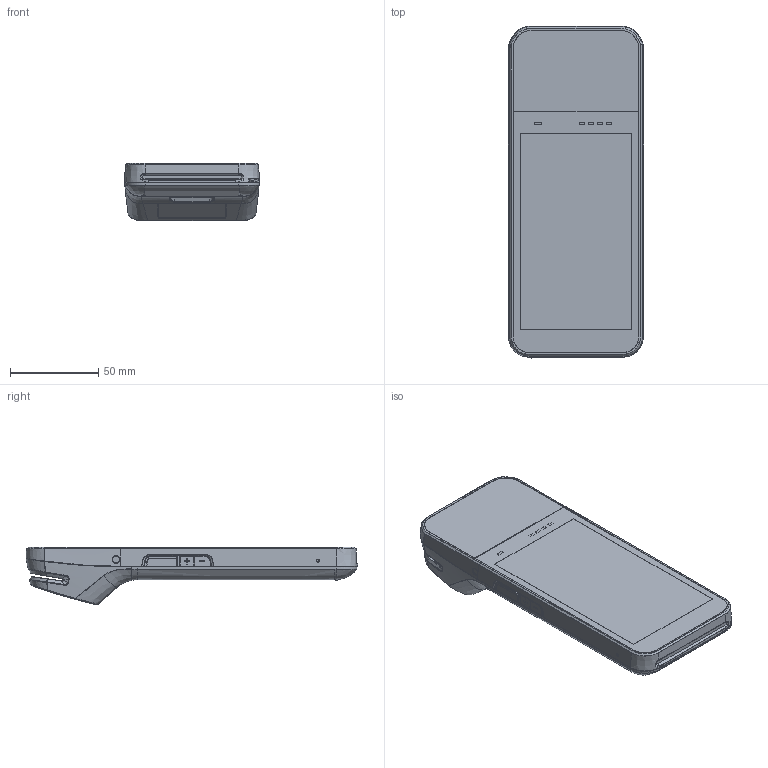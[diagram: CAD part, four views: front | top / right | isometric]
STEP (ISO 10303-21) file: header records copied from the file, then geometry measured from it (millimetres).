
FILE_DESCRIPTION((''),'2;1');
FILE_NAME('P500_FRONT_HSG','2022-04-21T',('Administrator'),(''),'CREO PARAMETRIC BY PTC INC, 2014190','CREO PARAMETRIC BY PTC INC, 2014190','');
FILE_SCHEMA(('AUTOMOTIVE_DESIGN { 1 0 10303 214 1 1 1 1 }'));
Products named in the file (1): P500_FRONT_HSG
Bounding box: 76.58 x 187.89 x 32.82 mm (x, y, z)
Volume: 260080.4 mm3; surface area: 83778.7 mm2
Topology: 1 solids, 5 shells, 3238 faces, 9224 edges, 6179 vertices
Faces by surface type: plane 1510, bspline 1072, cylinder 282, extrusion 236, cone 105, torus 17, sphere 16
Entity records: 164054 total; most frequent: CARTESIAN_POINT 88148, ORIENTED_EDGE 17100, DIRECTION 10815, EDGE_CURVE 8550, VERTEX_POINT 5388, VECTOR 5291, LINE 5055, B_SPLINE_CURVE_WITH_KNOTS 3569
